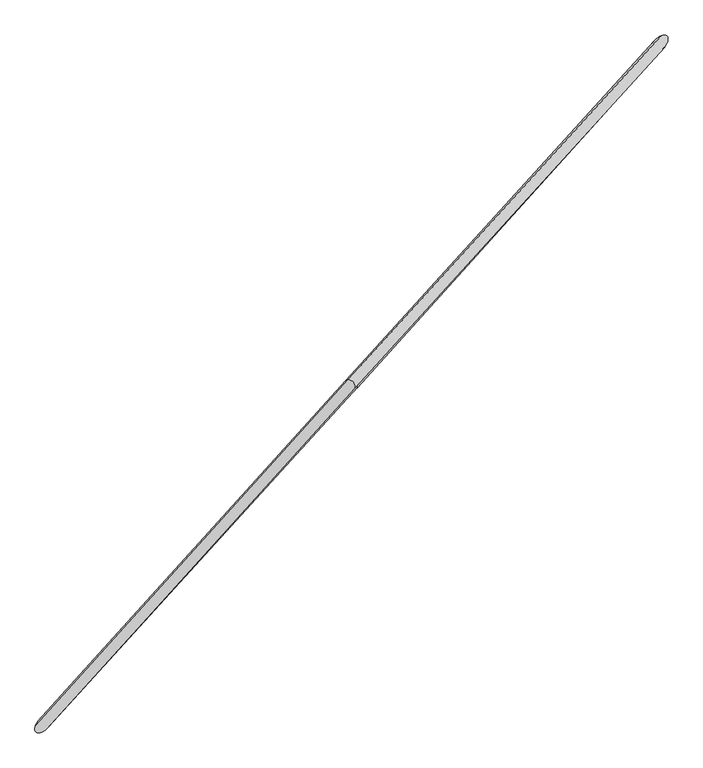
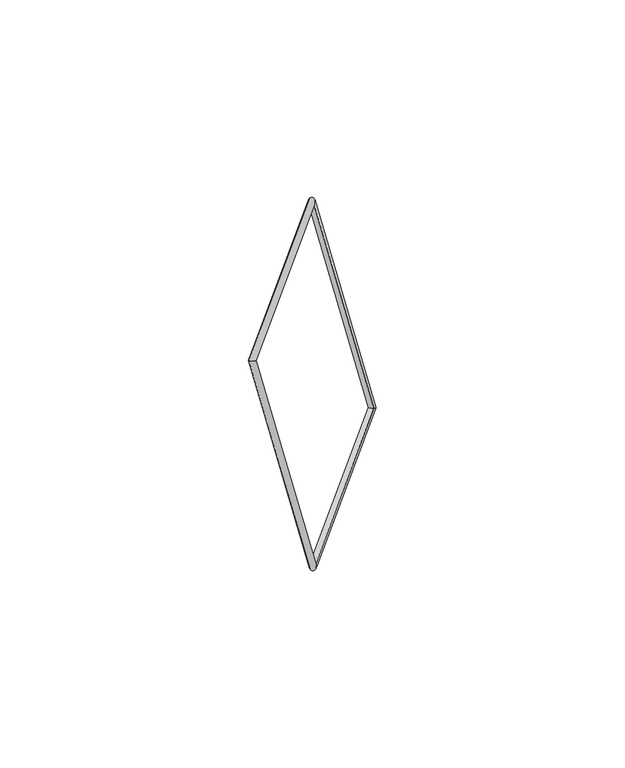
"""IFC4 building model written with IfcOpenShell, lengths in millimetres: proxy geometry, Família5 : Família5."""

from ifc_helpers import new_model, si_unit, frame, origin, place, context, project, spatial, ellipse_curve, source, transform, mapped, element, save
from ifc_brep_helpers import cylinder_surface, advanced_brep


def generic_models_895a63a5(model_context):
    return source(origin(), model_context, "Body", "AdvancedBrep", [
        advanced_brep(
        [(-1410.4586267, -1462.9404245, 26.8613397), (-1474.1466495, -1445.015417, -26.8613397), (653.0497834, 910.0949194, -26.8613397), (631.5554928, 797.8609221, 26.8613397), (-1468.9693499, -1421.7627238, 4919.2821153), (-1444.4879236, -1483.474638, 4865.8415331), (-3596.1657828, -3776.8730602, 4919.2821153), (-3486.5020431, -3744.2759846, 4865.8415331)],
        [
            (0, 1, ellipse_curve(frame((-1442.3026381, -1453.9779208, 0.0), z_axis=(0.5885466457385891, 0.6499018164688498, -0.4808746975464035), x_axis=(-0.32077970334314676, -0.3582547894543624, -0.8767861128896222)), 45.6210319, 40.0)),
            (1, 2),
            (2, 3, ellipse_curve(frame((642.3026381, 853.9779208, 0.0), z_axis=(-0.3207797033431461, -0.3582547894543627, -0.8767861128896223), x_axis=(-0.5885466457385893, -0.6499018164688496, 0.48087469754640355)), 83.1815179, 40.0)),
            (3, 0),
            (1, 0, ellipse_curve(frame((-1442.3026381, -1453.9779208, 0.0), z_axis=(0.5885466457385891, 0.6499018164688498, -0.4808746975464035), x_axis=(-0.32077970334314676, -0.3582547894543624, -0.8767861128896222)), 45.6210319, 40.0)),
            (3, 2, ellipse_curve(frame((642.3026381, 853.9779208, 0.0), z_axis=(-0.3207797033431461, -0.3582547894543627, -0.8767861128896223), x_axis=(-0.5885466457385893, -0.6499018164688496, 0.48087469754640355)), 83.1815179, 40.0)),
            (2, 4),
            (4, 5, ellipse_curve(frame((-1456.7286368, -1452.6186809, 4892.5618242), z_axis=(0.5885466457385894, 0.6499018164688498, -0.4808746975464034), x_axis=(-0.320779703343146, -0.3582547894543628, -0.8767861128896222)), 45.6210319, 40.0)),
            (5, 3),
            (5, 4, ellipse_curve(frame((-1456.7286368, -1452.6186809, 4892.5618242), z_axis=(0.5885466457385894, 0.6499018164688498, -0.4808746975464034), x_axis=(-0.320779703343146, -0.3582547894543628, -0.8767861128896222)), 45.6210319, 40.0)),
            (4, 6),
            (6, 7, ellipse_curve(frame((-3541.333913, -3760.5745224, 4892.5618242), z_axis=(0.32077970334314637, 0.358254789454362, 0.8767861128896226), x_axis=(0.5885466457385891, 0.6499018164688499, -0.48087469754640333)), 83.1815179, 40.0)),
            (7, 5),
            (7, 6, ellipse_curve(frame((-3541.333913, -3760.5745224, 4892.5618242), z_axis=(0.32077970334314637, 0.358254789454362, 0.8767861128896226), x_axis=(0.5885466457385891, 0.6499018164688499, -0.48087469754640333)), 83.1815179, 40.0)),
            (6, 1),
            (0, 7),
        ],
        [
            cylinder_surface(frame((-1442.3026381, -1453.9779208, 0.0), z_axis=(-0.6702862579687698, -0.7421026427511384, 0.0), x_axis=(-0.4983467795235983, 0.4501196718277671, 0.7409742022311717)), 40.0),
            cylinder_surface(frame((642.3026381, 853.9779208, 0.0), z_axis=(0.36177570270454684, 0.3975503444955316, -0.8432508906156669), x_axis=(-0.9160493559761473, -0.01638100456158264, -0.40073088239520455)), 40.0),
            cylinder_surface(frame((-1456.7286368, -1452.6186809, 4892.5618242), z_axis=(0.6702862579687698, 0.7421026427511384, 0.0), x_axis=(-0.49572996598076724, 0.44775609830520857, -0.7441547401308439)), 40.0),
            cylinder_surface(frame((-3541.333913, -3760.5745224, 4892.5618242), z_axis=(-0.3617757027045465, -0.39755034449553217, 0.8432508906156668), x_axis=(-0.07802738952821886, 0.9142567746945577, 0.39755034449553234)), 40.0),
        ],
        [
            (0, [[1, 2, 3, 4]]),
            (0, [[5, -4, 6, -2]]),
            (1, [[-3, 7, 8, 9]]),
            (1, [[-6, -9, 10, -7]]),
            (2, [[-8, 11, 12, 13]]),
            (2, [[-10, -13, 14, -11]]),
            (3, [[-12, 15, -1, 16]]),
            (3, [[-14, -16, -5, -15]]),
        ],
    ),
    ])


if __name__ == "__main__":
    model = new_model("IFC4")
    model_context = context("Model", 3, world=origin())
    ifc_project = project(units=[si_unit("LENGTHUNIT", "METRE", prefix="MILLI")], contexts=[model_context])
    site = spatial("IfcSite", under=ifc_project)
    building = spatial("IfcBuilding", under=site)
    placement = place(None, origin())
    generic_models_shape = generic_models_895a63a5(model_context)
    element("IfcBuildingElementProxy", 1, Name="Família5 : Família5", ObjectType="Família5 : Família5", at=placement, inside=building, context=model_context, shape_type="MappedRepresentation", body=[
        mapped(generic_models_shape, transform((0.0, 0.0, 0.0), x_axis=(1.0, 0.0, 0.0), y_axis=(0.0, 1.0, 0.0), z_axis=(0.0, 0.0, 1.0))),
    ])
    save(model, "model.ifc")
